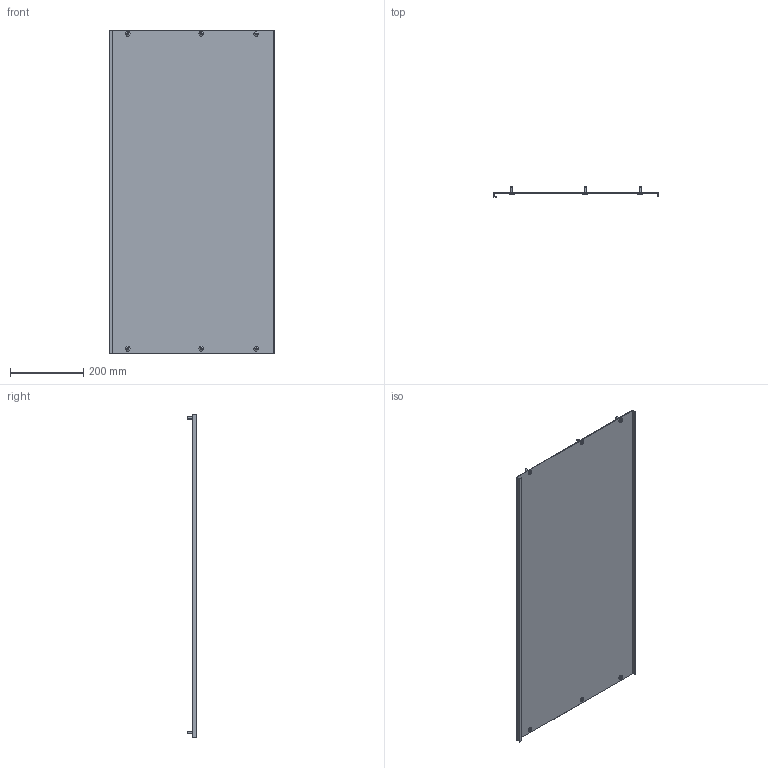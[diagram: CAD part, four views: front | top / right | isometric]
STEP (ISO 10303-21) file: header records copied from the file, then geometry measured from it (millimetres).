
FILE_DESCRIPTION (( 'STEP AP214' ), '1' );
FILE_NAME ('FO-00-PVS-045-100 Ïëàñòðîí ãëóõîé âíóòðåííèé 450õ1000.STEP', '2025-09-30T07:42:58', ( '' ), ( '' ), 'SwSTEP 2.0', 'SolidWorks 2023', '' );
FILE_SCHEMA (( 'AUTOMOTIVE_DESIGN' ));
Length unit declared in the file: millimetre
Products named in the file (3): Винт M6x16 045 IEK; FO-00-PVS-045-100 Пластрон глухой внутренний 450х1000
Assembly tree (3 placements, depth 2):
  FO-00-PVS-045-100 Пластрон глухой внутренний 450х1000
    FO-00-PVS-045-100 Пластрон глухой внутренний 450х1000
    Винт M6x16 045 IEK  x2
Bounding box: 448 x 27 x 879 mm (x, y, z)
Volume: 629193.8 mm3; surface area: 840880.7 mm2
Topology: 7 solids, 7 shells, 214 faces, 558 edges, 364 vertices
Faces by surface type: cylinder 132, plane 52, cone 18, bspline 12
Entity records: 4464 total; most frequent: CARTESIAN_POINT 1022, ORIENTED_EDGE 708, DIRECTION 692, EDGE_CURVE 354, AXIS2_PLACEMENT_3D 256, VERTEX_POINT 232, VECTOR 180, LINE 180
